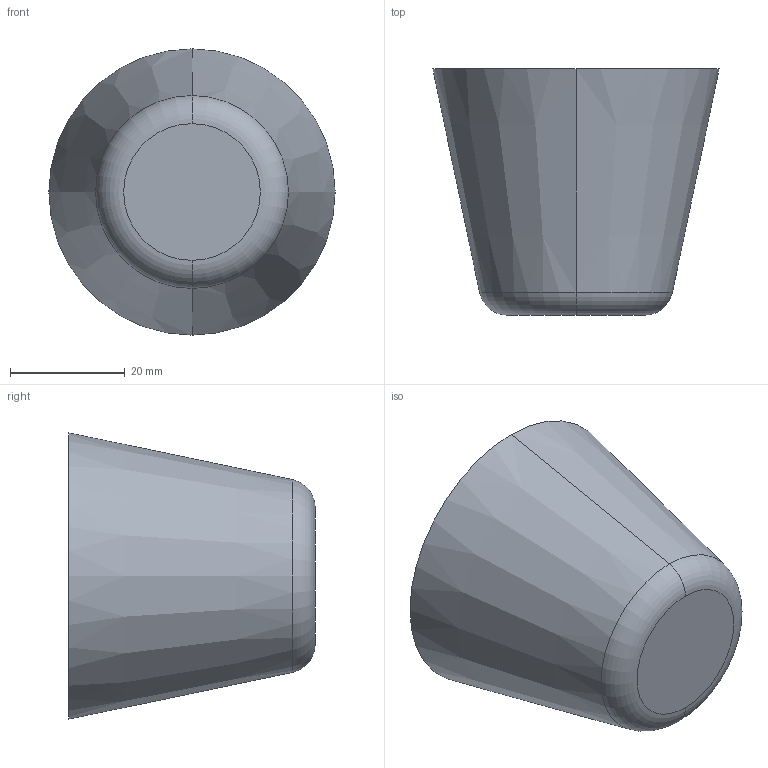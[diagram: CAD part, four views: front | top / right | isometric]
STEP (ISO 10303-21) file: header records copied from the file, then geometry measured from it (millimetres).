
FILE_DESCRIPTION (( 'STEP AP214' ), '1' );
FILE_NAME ('253-50-M10-55.step', '2023-03-24T07:38:45', ( '' ), ( '' ), 'SwSTEP 2.0', 'SolidWorks 2022', '' );
FILE_SCHEMA (( 'AUTOMOTIVE_DESIGN' ));
Length unit declared in the file: millimetre
Products named in the file (1): 253-50-M10-55
Bounding box: 50 x 43 x 50 mm (x, y, z)
Volume: 56716.4 mm3; surface area: 8583.8 mm2
Topology: 1 solids, 1 shells, 16 faces, 32 edges, 19 vertices
Faces by surface type: cone 6, cylinder 4, plane 4, torus 2
Entity records: 554 total; most frequent: DIRECTION 84, CARTESIAN_POINT 66, ORIENTED_EDGE 60, AXIS2_PLACEMENT_3D 37, EDGE_CURVE 30, CIRCLE 20, VERTEX_POINT 19, EDGE_LOOP 19
